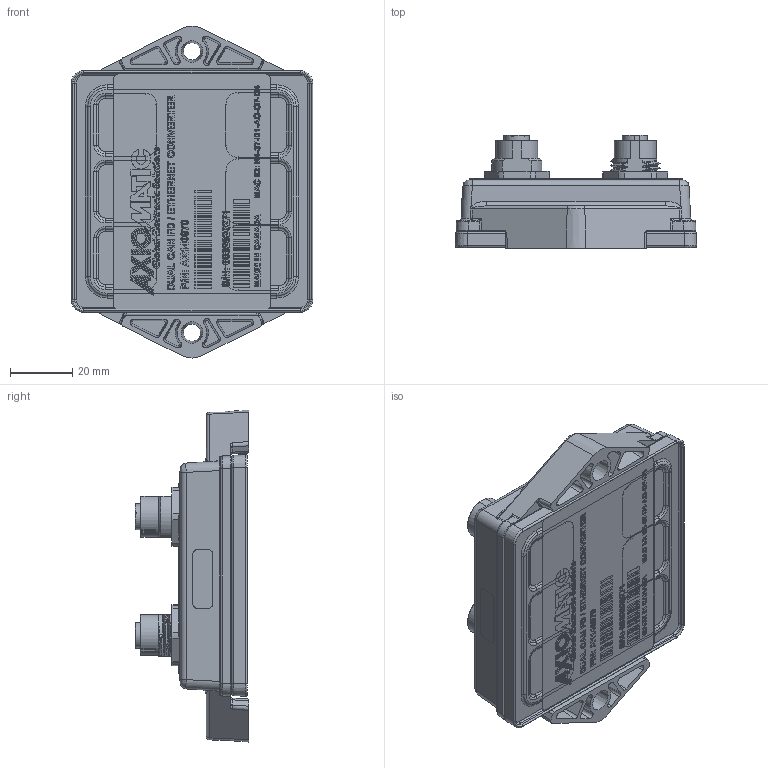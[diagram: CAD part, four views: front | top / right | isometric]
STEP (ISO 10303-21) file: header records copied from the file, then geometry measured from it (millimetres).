
FILE_DESCRIPTION(/* description */ (''),/* implementation_level */ '2;1');
FILE_NAME(/* name */ 'S:\Projects\2CAN-ENET-3M12, AX140970, Proj_23013\MECHANICAL\rev A\AX140970.stp',/* time_stamp */ '2025-09-24T10:34:11-04:00',/* author */ ('AutoDeskUser'),/* organization */ (''),/* preprocessor_version */ 'ST-DEVELOPER v18.1',/* originating_system */ 'Autodesk Inventor 2021',/* authorisation */ '');
FILE_SCHEMA (('CONFIG_CONTROL_DESIGN'));
Products named in the file (1): AX140970
Bounding box: 77.71 x 36.42 x 106.85 mm (x, y, z)
Volume: 130769.7 mm3; surface area: 36031.9 mm2
Topology: 1 solids, 1 shells, 5265 faces, 13989 edges, 9211 vertices
Faces by surface type: plane 3550, bspline 1211, cylinder 324, cone 122, torus 58
Full cylindrical faces by diameter (mm): 1 x8, 1.1 x10, 10.9 x4, 11.13 x1, 11.7 x2, 21.336 x3
Entity records: 203044 total; most frequent: CARTESIAN_POINT 75628, ORIENTED_EDGE 27970, DIRECTION 20258, EDGE_CURVE 13985, LINE 10282, VECTOR 10282, VERTEX_POINT 9211, EDGE_LOOP 5798
